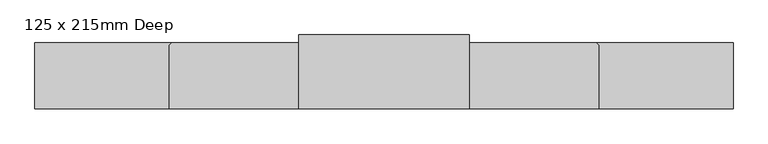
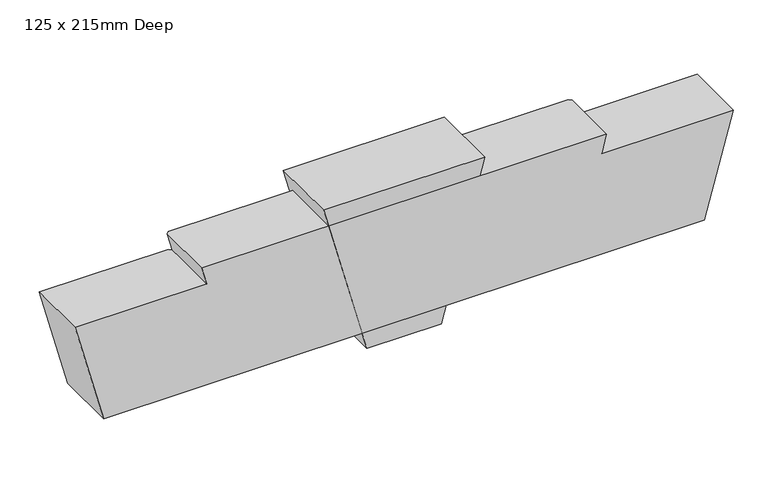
"""IFC4 building model written with IfcOpenShell, lengths in millimetres: proxy geometry, UK_Stone Lintol - Type C : 125 x 215mm Deep."""

from ifc_helpers import new_model, si_unit, frame, origin, place, context, project, spatial, polyline, outline, extrude, faceted_brep, source, transform, mapped, element, save


def proxy_125_x_215mm_deep_bb79ed5a(model_context):
    return source(origin(), model_context, "Body", "SolidModel", [
        faceted_brep([(559.4235263, 64.9144131, 2325.0), (569.4716211, 64.9144131, 2362.5), (-245.8427211, 64.9144131, 2362.5), (-235.7946264, 64.9144131, 2325.0), (-500.7946264, 64.9144131, 2325.0), (-443.18555, 64.9144131, 2110.0), (766.81445, 64.9144131, 2110.0), (824.4235263, 64.9144131, 2325.0), (824.4235263, 189.9144131, 2325.0), (766.81445, 189.9144131, 2110.0), (506.9908309, 189.9144131, 2110.0), (564.5999072, 189.9144131, 2325.0), (-443.18555, 189.9144131, 2110.0), (-500.7946264, 189.9144131, 2325.0), (-240.9710073, 189.9144131, 2325.0), (-183.3619309, 189.9144131, 2110.0), (564.2952401, 189.9144131, 2362.5), (496.6380691, 189.9144131, 2110.0), (-173.0091691, 189.9144131, 2110.0), (-240.6663402, 189.9144131, 2362.5), (559.4235263, 184.9144131, 2325.0), (569.4716211, 184.9144131, 2362.5), (-245.8427211, 184.9144131, 2362.5), (-235.7946264, 184.9144131, 2325.0), (-178.18555, 184.9144131, 2110.0), (501.81445, 184.9144131, 2110.0)], [[[0, 1, 2, 3, 4, 5, 6, 7]], [[8, 9, 10, 11]], [[12, 13, 14, 15]], [[16, 17, 18, 19]], [[1, 0, 20, 21]], [[2, 1, 21, 16, 19, 22]], [[3, 2, 22, 23]], [[4, 3, 23, 14, 13]], [[5, 4, 13, 12]], [[6, 5, 12, 15, 24, 18, 17, 25, 10, 9]], [[7, 6, 9, 8]], [[0, 7, 8, 11, 20]], [[20, 25, 17, 16, 21]], [[25, 20, 11, 10]], [[24, 23, 22, 19, 18]], [[23, 24, 15, 14]]]),
        extrude(outline(polyline([(2075.0, 236.81445), (2400.0, 323.8979375), (2400.0, -0.2690376), (2075.0, 86.81445), (2075.0, 236.81445)])), frame((0.0, 64.9144131, 0.0), z_axis=(0.0, 1.0, 0.0), x_axis=(0.0, 0.0, 1.0)), (0.0, 0.0, 1.0), 140.0),
    ])


if __name__ == "__main__":
    model = new_model("IFC4")
    model_context = context("Model", 3, world=origin())
    ifc_project = project(units=[si_unit("LENGTHUNIT", "METRE", prefix="MILLI")], contexts=[model_context])
    site = spatial("IfcSite", under=ifc_project)
    building = spatial("IfcBuilding", under=site)
    placement = place(None, origin())
    proxy_125_x_215mm_deep_shape = proxy_125_x_215mm_deep_bb79ed5a(model_context)
    element("IfcBuildingElementProxy", 1, Name="UK_Stone Lintol - Type C : 125 x 215mm Deep", ObjectType="UK_Stone Lintol - Type C : 125 x 215mm Deep", at=placement, inside=building, context=model_context, shape_type="MappedRepresentation", body=[
        mapped(proxy_125_x_215mm_deep_shape, transform((0.0, 0.0, 0.0), x_axis=(1.0, 0.0, 0.0), y_axis=(0.0, 1.0, 0.0), z_axis=(0.0, 0.0, 1.0))),
    ])
    save(model, "model.ifc")
